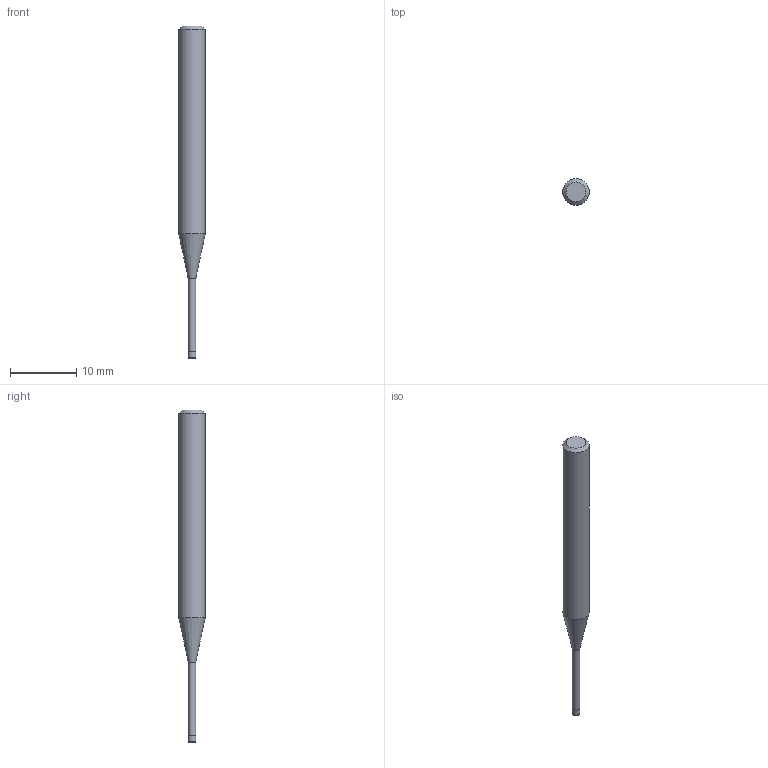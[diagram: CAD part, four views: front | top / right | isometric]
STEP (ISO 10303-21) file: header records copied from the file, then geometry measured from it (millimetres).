
FILE_DESCRIPTION((''),'2;1');
FILE_NAME('C:\Users\nsx150\AppData\Local\Temp\Mastercam 2021\17T8Q8S9EB\TEMP.step','2021-04-21T14:34:48',(''),(''),'STEP Write','Mastercam 2021 ... CNC Software, Inc.','');
FILE_SCHEMA(('AUTOMOTIVE_DESIGN'));
Length unit declared in the file: millimetre
Products named in the file (1): None
Bounding box: 4 x 4 x 50 mm (x, y, z)
Volume: 442.4 mm3; surface area: 503.4 mm2
Topology: 2 solids, 2 shells, 10 faces, 14 edges, 8 vertices
Faces by surface type: plane 4, cylinder 3, cone 2, torus 1
Full cylindrical faces by diameter (mm): 1.14 x1, 1.2 x1, 4 x1
Entity records: 232 total; most frequent: DIRECTION 40, CARTESIAN_POINT 28, AXIS2_PLACEMENT_3D 20, ORIENTED_EDGE 16, EDGE_LOOP 16, STYLED_ITEM 13, ADVANCED_FACE 10, FACE_BOUND 10
